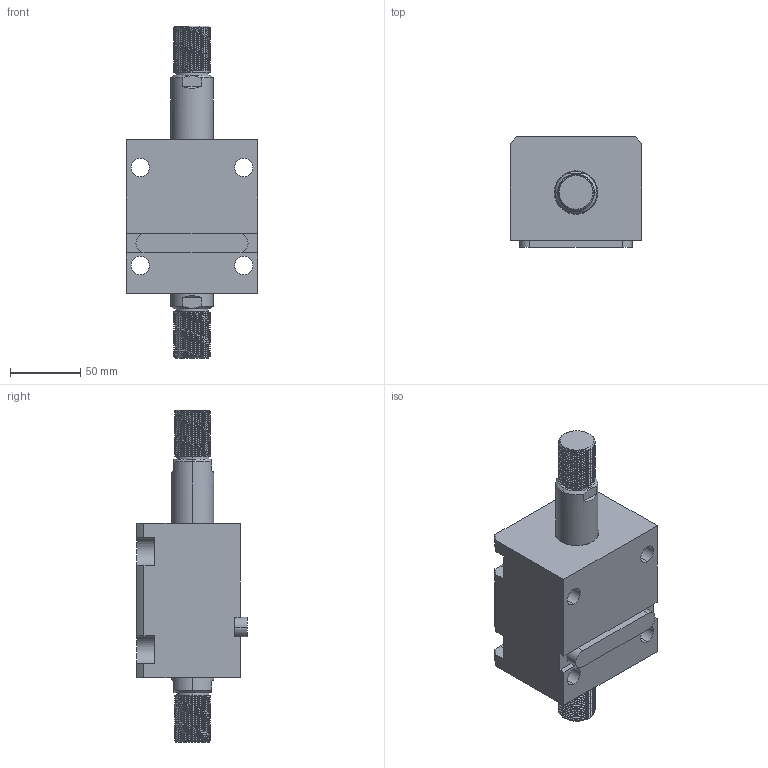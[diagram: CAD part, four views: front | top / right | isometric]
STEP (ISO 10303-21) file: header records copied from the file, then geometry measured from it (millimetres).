
FILE_DESCRIPTION (( 'STEP AP203' ), '1' );
FILE_NAME ('CHTB-LW50-35W.STEP', '2018-05-18T07:39:31', ( '' ), ( '' ), 'SwSTEP 2.0', 'SolidWorks 2015', '' );
FILE_SCHEMA (( 'CONFIG_CONTROL_DESIGN' ));
Length unit declared in the file: millimetre
Products named in the file (4): 活塞杆LW50-35W; 掛极LW50-35W; CHTB-LW50-35W; CHTM-SDMA50QG
Assembly tree (3 placements, depth 2):
  CHTB-LW50-35W
    掛极LW50-35W
    活塞杆LW50-35W
    CHTM-SDMA50QG
Bounding box: 94 x 79 x 237 mm (x, y, z)
Volume: 740953.6 mm3; surface area: 123793.4 mm2
Topology: 3 solids, 3 shells, 306 faces, 846 edges, 564 vertices
Faces by surface type: cylinder 186, plane 63, cone 23, bspline 18, torus 16
Entity records: 19410 total; most frequent: CARTESIAN_POINT 11924, ORIENTED_EDGE 1684, DIRECTION 1290, EDGE_CURVE 842, VERTEX_POINT 564, AXIS2_PLACEMENT_3D 495, EDGE_LOOP 344, ADVANCED_FACE 306
